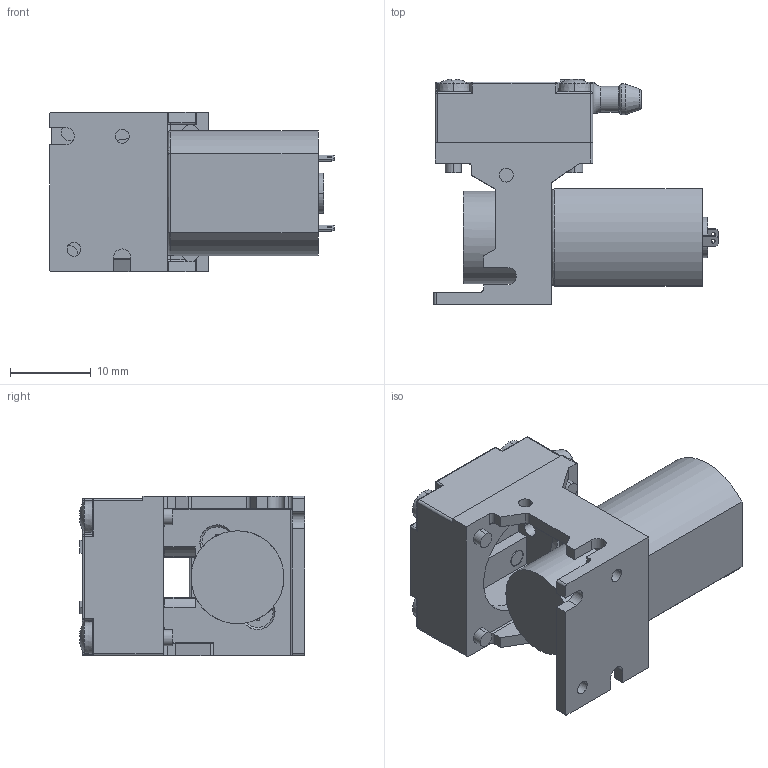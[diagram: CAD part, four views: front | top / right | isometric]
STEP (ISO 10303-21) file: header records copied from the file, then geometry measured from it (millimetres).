
FILE_DESCRIPTION((''),'2;1');
FILE_NAME('NMP09S-110111-PUMPE-NMP09S-ID04','2015-01-28T',('rsenra'),('KNF Neuberger GmbH'),'PRO/ENGINEER BY PARAMETRIC TECHNOLOGY CORPORATION, 2011310','PRO/ENGINEER BY PARAMETRIC TECHNOLOGY CORPORATION, 2011310','');
FILE_SCHEMA(('CONFIG_CONTROL_DESIGN'));
Length unit declared in the file: millimetre
Products named in the file (1): NMP09S-110111-PUMPE-NMP09S-ID04
Bounding box: 35.25 x 27.86 x 19.8 mm (x, y, z)
Volume: 6195.2 mm3; surface area: 5750.4 mm2
Topology: 1 solids, 1 shells, 458 faces, 1110 edges, 655 vertices
Faces by surface type: cylinder 136, extrusion 120, plane 115, torus 34, cone 24, sphere 21, bspline 8
Entity records: 14657 total; most frequent: CARTESIAN_POINT 4177, ORIENTED_EDGE 2186, DIRECTION 1994, EDGE_CURVE 1093, VERTEX_POINT 769, AXIS2_PLACEMENT_3D 707, VECTOR 580, EDGE_LOOP 492
